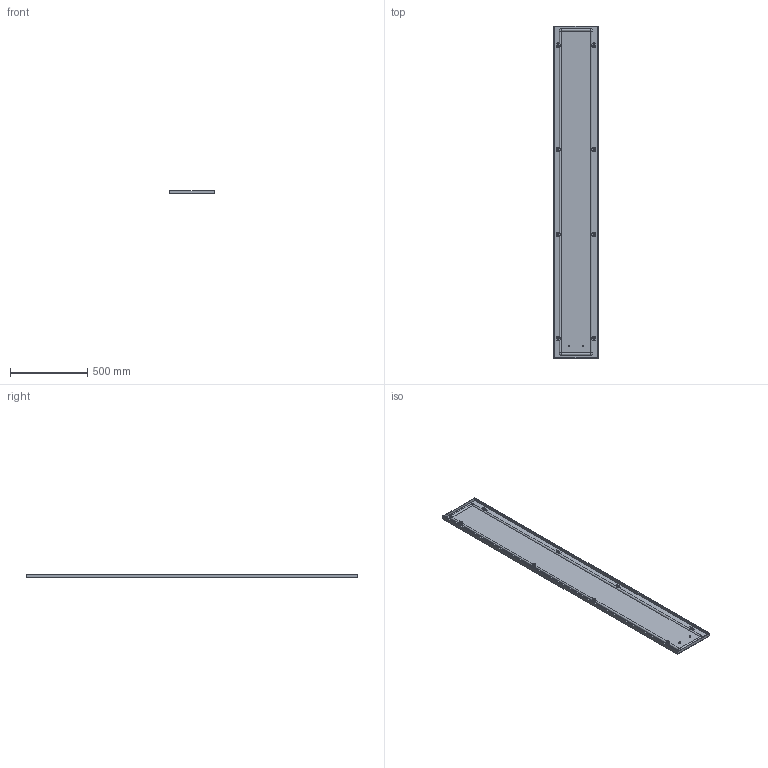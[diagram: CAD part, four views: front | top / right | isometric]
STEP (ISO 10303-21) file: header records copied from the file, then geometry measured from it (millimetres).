
FILE_DESCRIPTION(('Open CASCADE Model'),'2;1');
FILE_NAME('Open CASCADE Shape Model','2025-02-07T16:30:44',('Author'),( 'Open CASCADE'),'Open CASCADE STEP processor 7.8','Open CASCADE 7.8' ,'Unknown');
FILE_SCHEMA(('AUTOMOTIVE_DESIGN { 1 0 10303 214 1 1 1 1 }'));
Length unit declared in the file: millimetre
Products named in the file (10): Compound1; Compound2; Compound3; Solid1; Solid2; Solid3; Solid4; Solid5; Solid6; Solid7
Assembly tree (40 placements, depth 4):
  Compound1
    Compound2
      Compound3
        Solid1
        Solid2  x4
      Solid3
    Solid4  x8
    Solid5  x8
    Solid6  x8
    Solid7  x8
Bounding box: 294 x 2155 x 23.8 mm (x, y, z)
Volume: 1580726.7 mm3; surface area: 1754249.7 mm2
Topology: 38 solids, 38 shells, 1655 faces, 4040 edges, 2460 vertices
Faces by surface type: plane 1043, cone 308, cylinder 268, torus 28, bspline 8
Full cylindrical faces by diameter (mm): 5 x16, 6 x132, 7.5 x4, 8 x16, 10 x8, 11.57 x8
Entity records: 7757 total; most frequent: CARTESIAN_POINT 1447, DIRECTION 1265, ORIENTED_EDGE 1244, EDGE_CURVE 622, AXIS2_PLACEMENT_3D 428, LINE 409, VECTOR 409, VERTEX_POINT 387
